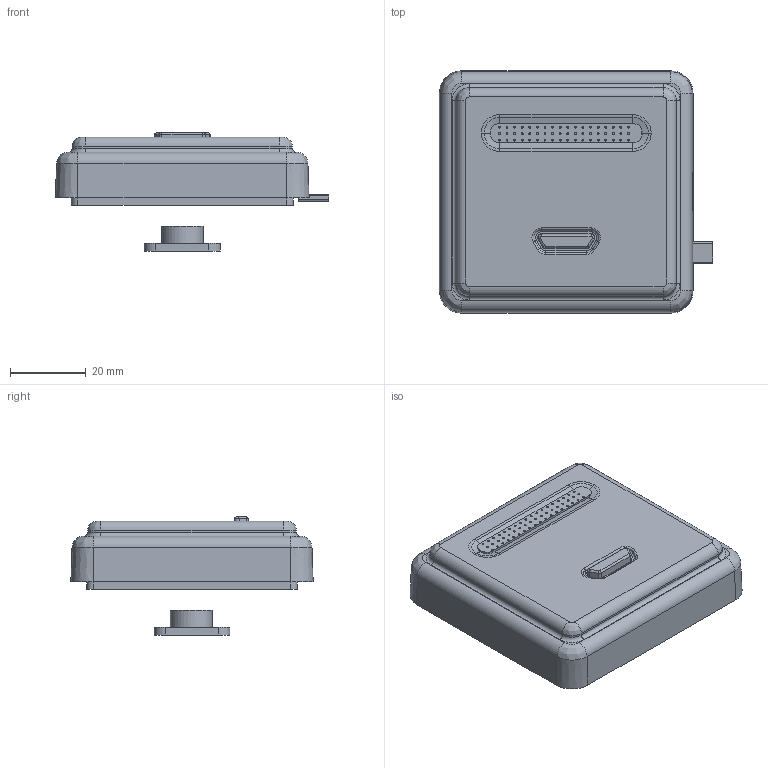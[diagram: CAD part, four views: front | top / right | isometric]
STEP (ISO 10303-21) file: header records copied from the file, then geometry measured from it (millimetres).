
FILE_DESCRIPTION(/* description */ (''),/* implementation_level */ '2;1');
FILE_NAME(/* name */ '教师组样题5.stp',/* time_stamp */ '2023-04-14T23:11:26+08:00',/* author */ (''),/* organization */ (''),/* preprocessor_version */ 'ST-DEVELOPER v16.7',/* originating_system */ 'SIEMENS PLM Software NX 12.0',/* authorisation */ '');
FILE_SCHEMA (('AUTOMOTIVE_DESIGN { 1 0 10303 214 3 1 1 1 }'));
Length unit declared in the file: millimetre
Products named in the file (1): 教师组样题5_stp
Bounding box: 71.99 x 63.84 x 31.1 mm (x, y, z)
Volume: 23384.5 mm3; surface area: 25049.9 mm2
Topology: 6 solids, 6 shells, 304 faces, 786 edges, 505 vertices
Faces by surface type: cylinder 156, plane 99, torus 24, bspline 13, cone 12
Full cylindrical faces by diameter (mm): 0.5 x54, 1.5 x4, 3 x4, 3.683 x1, 4 x4, 6 x4, 11 x1
Entity records: 9701 total; most frequent: CARTESIAN_POINT 2069, DIRECTION 1634, ORIENTED_EDGE 1410, EDGE_CURVE 705, AXIS2_PLACEMENT_3D 662, EDGE_LOOP 518, VERTEX_POINT 497, CIRCLE 367
